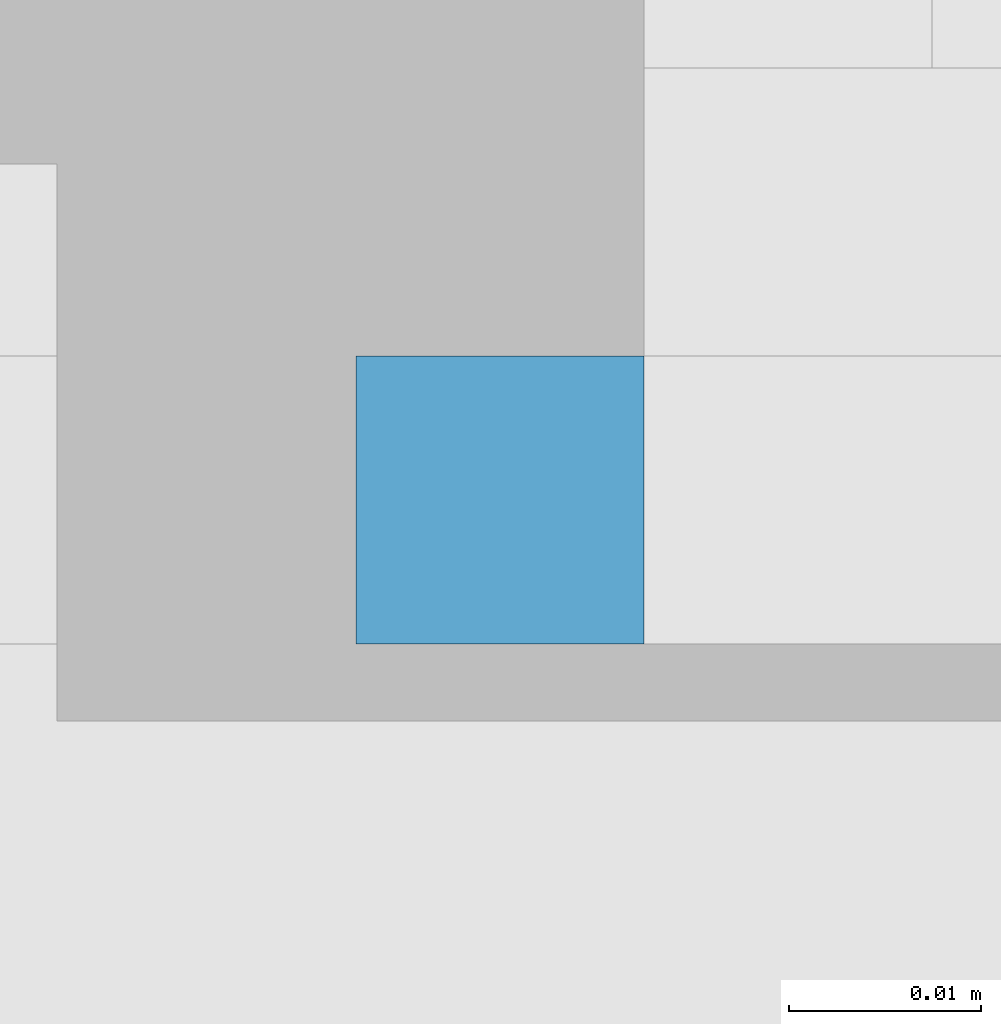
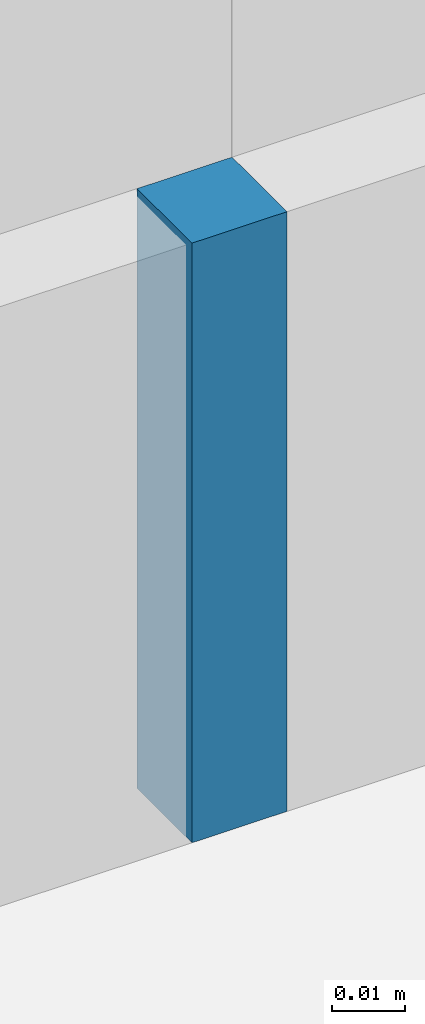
# One storey, part 70 of 183: 1 building element part, 1 element without a shape of its own.
"""IFC2X3 building model written with IfcOpenShell, lengths in metres."""

from ifc_helpers import new_model, entity, si_unit, converted_unit, derived_unit, money_unit, direction, frame, frame_2d, origin_with_axes, place, context, subcontext, project, spatial, rectangle, extrude, material, type_object, element, aggregate, save


model = new_model("IFC2X3")

# Units and contexts
model_context = context("Model", 3, precision=1e-05, world=origin_with_axes(), true_north=direction((0.0, 1.0)))
body_context = subcontext(model_context, "Body", "Model", "MODEL_VIEW", scale=1.0)
ifc_project = project(units=[si_unit("LENGTHUNIT", "METRE"), si_unit("AREAUNIT", "SQUARE_METRE"), si_unit("VOLUMEUNIT", "CUBIC_METRE"), si_unit("ABSORBEDDOSEUNIT", "GRAY"), si_unit("AMOUNTOFSUBSTANCEUNIT", "MOLE"), si_unit("DOSEEQUIVALENTUNIT", "SIEVERT"), si_unit("ELECTRICCAPACITANCEUNIT", "FARAD"), si_unit("ELECTRICCHARGEUNIT", "COULOMB"), si_unit("ELECTRICCONDUCTANCEUNIT", "SIEMENS"), si_unit("ELECTRICCURRENTUNIT", "AMPERE"), si_unit("ELECTRICRESISTANCEUNIT", "OHM"), si_unit("ELECTRICVOLTAGEUNIT", "VOLT"), si_unit("ENERGYUNIT", "JOULE"), si_unit("FORCEUNIT", "NEWTON"), si_unit("FREQUENCYUNIT", "HERTZ"), si_unit("ILLUMINANCEUNIT", "LUX"), si_unit("INDUCTANCEUNIT", "HENRY"), si_unit("LUMINOUSFLUXUNIT", "LUMEN"), si_unit("LUMINOUSINTENSITYUNIT", "CANDELA"), si_unit("MAGNETICFLUXDENSITYUNIT", "TESLA"), si_unit("MAGNETICFLUXUNIT", "WEBER"), si_unit("MASSUNIT", "GRAM"), converted_unit("PLANEANGLEUNIT", "degree", entity("IfcReal", 0.0174532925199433), si_unit("PLANEANGLEUNIT", "RADIAN"), dimensions=[0, 0, 0, 0, 0, 0, 0]), si_unit("POWERUNIT", "WATT"), si_unit("PRESSUREUNIT", "PASCAL"), si_unit("RADIOACTIVITYUNIT", "BECQUEREL"), si_unit("SOLIDANGLEUNIT", "STERADIAN"), si_unit("THERMODYNAMICTEMPERATUREUNIT", "KELVIN"), si_unit("TIMEUNIT", "SECOND"), derived_unit("ACCELERATIONUNIT", [(si_unit("LENGTHUNIT", "METRE"), 1), (si_unit("TIMEUNIT", "SECOND"), -2)]), derived_unit("ANGULARVELOCITYUNIT", [(converted_unit("PLANEANGLEUNIT", "degree", entity("IfcReal", 0.0174532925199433), si_unit("PLANEANGLEUNIT", "RADIAN"), dimensions=[0, 0, 0, 0, 0, 0, 0]), 1), (si_unit("TIMEUNIT", "SECOND"), -1)]), derived_unit("CURVATUREUNIT", [(converted_unit("PLANEANGLEUNIT", "degree", entity("IfcReal", 0.0174532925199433), si_unit("PLANEANGLEUNIT", "RADIAN"), dimensions=[0, 0, 0, 0, 0, 0, 0]), 1), (si_unit("LENGTHUNIT", "METRE"), -1)]), derived_unit("DYNAMICVISCOSITYUNIT", [(si_unit("PRESSUREUNIT", "PASCAL"), 1), (si_unit("TIMEUNIT", "SECOND"), 1)]), derived_unit("HEATFLUXDENSITYUNIT", [(si_unit("POWERUNIT", "WATT"), 1), (si_unit("LENGTHUNIT", "METRE"), -2)]), derived_unit("HEATINGVALUEUNIT", [(si_unit("ENERGYUNIT", "JOULE"), 1), (si_unit("MASSUNIT", "GRAM"), -1)]), derived_unit("INTEGERCOUNTRATEUNIT", [(si_unit("TIMEUNIT", "SECOND"), -1)]), derived_unit("IONCONCENTRATIONUNIT", [(si_unit("MASSUNIT", "GRAM"), 1), (si_unit("VOLUMEUNIT", "CUBIC_METRE"), -1)]), derived_unit("ISOTHERMALMOISTURECAPACITYUNIT", [(si_unit("VOLUMEUNIT", "CUBIC_METRE"), 1), (si_unit("MASSUNIT", "GRAM"), -1)]), derived_unit("KINEMATICVISCOSITYUNIT", [(si_unit("AREAUNIT", "SQUARE_METRE"), 1), (si_unit("TIMEUNIT", "SECOND"), -1)]), derived_unit("LINEARFORCEUNIT", [(si_unit("FORCEUNIT", "NEWTON"), 1), (si_unit("LENGTHUNIT", "METRE"), -1)]), derived_unit("LINEARMOMENTUNIT", [(si_unit("FORCEUNIT", "NEWTON"), 1), (si_unit("LENGTHUNIT", "METRE"), -1)]), derived_unit("LINEARSTIFFNESSUNIT", [(si_unit("FORCEUNIT", "NEWTON"), 1), (si_unit("LENGTHUNIT", "METRE"), -1)]), derived_unit("LINEARVELOCITYUNIT", [(si_unit("LENGTHUNIT", "METRE"), 1), (si_unit("TIMEUNIT", "SECOND"), -1)]), derived_unit("LUMINOUSINTENSITYDISTRIBUTIONUNIT", [(si_unit("LUMINOUSINTENSITYUNIT", "CANDELA"), 1), (si_unit("LUMINOUSFLUXUNIT", "LUMEN"), -1)]), derived_unit("MASSDENSITYUNIT", [(si_unit("MASSUNIT", "GRAM"), 1), (si_unit("VOLUMEUNIT", "CUBIC_METRE"), -1)]), derived_unit("MASSFLOWRATEUNIT", [(si_unit("MASSUNIT", "GRAM"), 1), (si_unit("TIMEUNIT", "SECOND"), -1)]), derived_unit("MASSPERLENGTHUNIT", [(si_unit("MASSUNIT", "GRAM"), 1), (si_unit("LENGTHUNIT", "METRE"), -1)]), derived_unit("MODULUSOFELASTICITYUNIT", [(si_unit("FORCEUNIT", "NEWTON"), 1), (si_unit("AREAUNIT", "SQUARE_METRE"), -1)]), derived_unit("MODULUSOFLINEARSUBGRADEREACTIONUNIT", [(si_unit("FORCEUNIT", "NEWTON"), 1), (si_unit("LENGTHUNIT", "METRE"), -2)]), derived_unit("MODULUSOFROTATIONALSUBGRADEREACTIONUNIT", [(si_unit("FORCEUNIT", "NEWTON"), 1), (si_unit("LENGTHUNIT", "METRE"), 1)]), derived_unit("MODULUSOFSUBGRADEREACTIONUNIT", [(si_unit("FORCEUNIT", "NEWTON"), 1), (si_unit("VOLUMEUNIT", "CUBIC_METRE"), -1)]), derived_unit("MOISTUREDIFFUSIVITYUNIT", [(si_unit("VOLUMEUNIT", "CUBIC_METRE"), 1), (si_unit("TIMEUNIT", "SECOND"), -1)]), derived_unit("MOLECULARWEIGHTUNIT", [(si_unit("MASSUNIT", "GRAM"), 1), (si_unit("AMOUNTOFSUBSTANCEUNIT", "MOLE"), -1)]), derived_unit("PLANARFORCEUNIT", [(si_unit("FORCEUNIT", "NEWTON"), 1), (si_unit("LENGTHUNIT", "METRE"), -2)]), derived_unit("ROTATIONALFREQUENCYUNIT", [(si_unit("TIMEUNIT", "SECOND"), -1)]), derived_unit("ROTATIONALMASSUNIT", [(si_unit("MASSUNIT", "GRAM"), 1), (si_unit("LENGTHUNIT", "METRE"), 2)]), derived_unit("ROTATIONALSTIFFNESSUNIT", [(si_unit("FORCEUNIT", "NEWTON"), 1), (si_unit("LENGTHUNIT", "METRE"), 1), (converted_unit("PLANEANGLEUNIT", "degree", entity("IfcReal", 0.0174532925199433), si_unit("PLANEANGLEUNIT", "RADIAN"), dimensions=[0, 0, 0, 0, 0, 0, 0]), -1)]), derived_unit("SECTIONAREAINTEGRALUNIT", [(si_unit("LENGTHUNIT", "METRE"), 5)]), derived_unit("SECTIONMODULUSUNIT", [(si_unit("LENGTHUNIT", "METRE"), 3)]), derived_unit("SHEARMODULUSUNIT", [(si_unit("FORCEUNIT", "NEWTON"), 1), (si_unit("AREAUNIT", "SQUARE_METRE"), -1)]), derived_unit("SOUNDPOWERUNIT", [(si_unit("ENERGYUNIT", "JOULE"), 1), (si_unit("TIMEUNIT", "SECOND"), -1)]), derived_unit("SPECIFICHEATCAPACITYUNIT", [(si_unit("FORCEUNIT", "NEWTON"), 1), (si_unit("MASSUNIT", "GRAM"), -1), (si_unit("THERMODYNAMICTEMPERATUREUNIT", "KELVIN"), -1)]), derived_unit("TEMPERATUREGRADIENTUNIT", [(si_unit("THERMODYNAMICTEMPERATUREUNIT", "KELVIN"), 1), (si_unit("LENGTHUNIT", "METRE"), -1)]), derived_unit("THERMALADMITTANCEUNIT", [(si_unit("POWERUNIT", "WATT"), 1), (si_unit("AREAUNIT", "SQUARE_METRE"), -1), (si_unit("THERMODYNAMICTEMPERATUREUNIT", "KELVIN"), -1)]), derived_unit("THERMALCONDUCTANCEUNIT", [(si_unit("POWERUNIT", "WATT"), 1), (si_unit("LENGTHUNIT", "METRE"), -1), (si_unit("THERMODYNAMICTEMPERATUREUNIT", "KELVIN"), -1)]), derived_unit("THERMALEXPANSIONCOEFFICIENTUNIT", [(si_unit("THERMODYNAMICTEMPERATUREUNIT", "KELVIN"), -1)]), derived_unit("THERMALRESISTANCEUNIT", [(si_unit("AREAUNIT", "SQUARE_METRE"), 1), (si_unit("POWERUNIT", "WATT"), -1)]), derived_unit("THERMALTRANSMITTANCEUNIT", [(si_unit("POWERUNIT", "WATT"), 1), (si_unit("AREAUNIT", "SQUARE_METRE"), -1), (si_unit("THERMODYNAMICTEMPERATUREUNIT", "KELVIN"), -1)]), derived_unit("TORQUEUNIT", [(si_unit("FORCEUNIT", "NEWTON"), 1), (si_unit("LENGTHUNIT", "METRE"), 1)]), derived_unit("VAPORPERMEABILITYUNIT", [(si_unit("MASSUNIT", "GRAM"), 1), (si_unit("TIMEUNIT", "SECOND"), -1)]), derived_unit("VOLUMETRICFLOWRATEUNIT", [(si_unit("VOLUMEUNIT", "CUBIC_METRE"), 1), (si_unit("TIMEUNIT", "SECOND"), -1)]), derived_unit("WARPINGCONSTANTUNIT", [(si_unit("LENGTHUNIT", "METRE"), 6)]), derived_unit("WARPINGMOMENTUNIT", [(si_unit("FORCEUNIT", "NEWTON"), 1), (si_unit("LENGTHUNIT", "METRE"), 2)]), money_unit("GBP")], contexts=[model_context])

# Site, building, storey
site_placement = place(None, origin_with_axes())
site = spatial("IfcSite", under=ifc_project, at=site_placement, Name="Site", CompositionType="ELEMENT")
building_placement = place(site_placement, origin_with_axes())
building = spatial("IfcBuilding", under=site, at=building_placement, Name="Building01", CompositionType="ELEMENT")
storey_placement = place(building_placement, frame((0.0, 0.0, 5.15), z_axis=(0.0, 0.0, 1.0), x_axis=(1.0, 0.0, 0.0)))
storey = spatial("IfcBuildingStorey", under=building, at=storey_placement, Name="1F", CompositionType="ELEMENT", Elevation=5.15)

# Wall, building element part
wall_type = type_object("IfcWallType", Name="SHE_A-Walls_Type04a_BlockworkWall_130mm", PredefinedType="NOTDEFINED")
wall_placement = place(storey_placement, frame((15.715, 8.665, 0.0), z_axis=(0.0, 0.0, 1.0), x_axis=(0.0, -1.0, 0.0)))
wall = element("IfcWall", 1, at=wall_placement, inside=storey, type_object=wall_type, Name="4A", ObjectType="SHE_A-Walls_Type04a_BlockworkWall_130mm")
ifc_material = material(Name="A_BSUK_Walls_Timber")
building_element_part_placement = place(wall_placement, origin_with_axes())
building_element_part = element("IfcBuildingElementPart", 2, at=building_element_part_placement, material=ifc_material, Name="1", context=body_context, shape_type="SweptSolid", body=[
    extrude(rectangle(XDim=0.015, YDim=0.015, at=frame_2d((2.4225, -0.0225), x_axis=(0.0, -1.0))), frame((0.0, 0.0, 0.015), z_axis=(0.0, 0.0, 1.0), x_axis=(1.0, 0.0, 0.0)), (0.0, 0.0, 1.0), 0.1),
])
aggregate(wall, [building_element_part])

save(model, "model.ifc")
